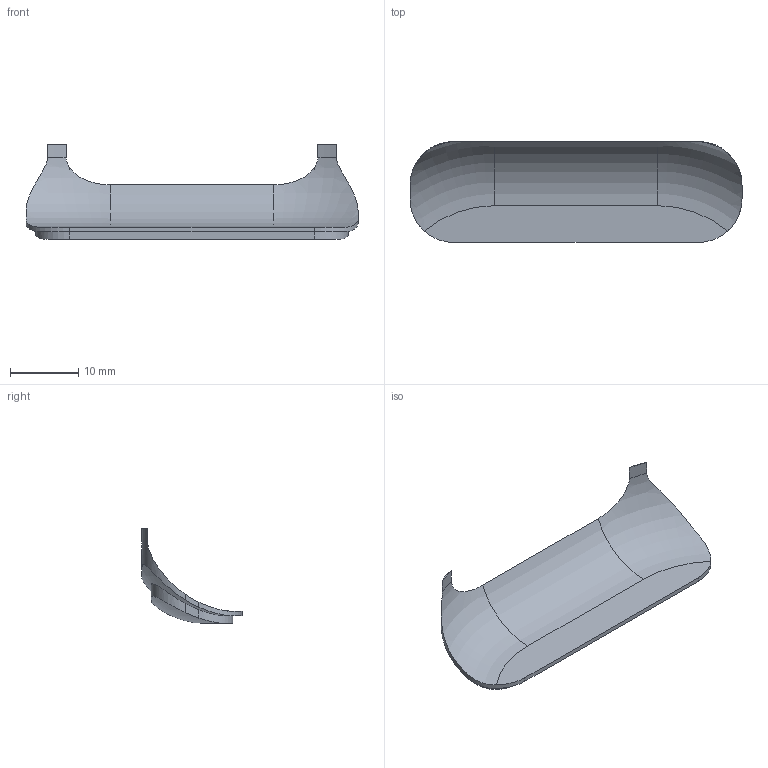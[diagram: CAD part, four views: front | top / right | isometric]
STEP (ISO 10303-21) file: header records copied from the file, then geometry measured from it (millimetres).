
FILE_DESCRIPTION(('Open CASCADE Model'),'2;1');
FILE_NAME('Open CASCADE Shape Model','2026-09-08T13:32:07',('Author'),( 'Open CASCADE'),'Open CASCADE STEP processor 7.7','Open CASCADE 7.7' ,'Unknown');
FILE_SCHEMA(('AUTOMOTIVE_DESIGN { 1 0 10303 214 1 1 1 1 }'));
Length unit declared in the file: millimetre
Products named in the file (1): Open CASCADE STEP translator 7.7 27
Bounding box: 48.8 x 14.8 x 13.95 mm (x, y, z)
Volume: 1194.2 mm3; surface area: 1940.9 mm2
Topology: 1 solids, 1 shells, 32 faces, 90 edges, 60 vertices
Faces by surface type: cylinder 13, plane 13, torus 6
Entity records: 4261 total; most frequent: CARTESIAN_POINT 2657, DIRECTION 237, ORIENTED_EDGE 180, PCURVE 180, DEFINITIONAL_REPRESENTATION 180, B_SPLINE_CURVE_WITH_KNOTS 122, LINE 104, VECTOR 104
